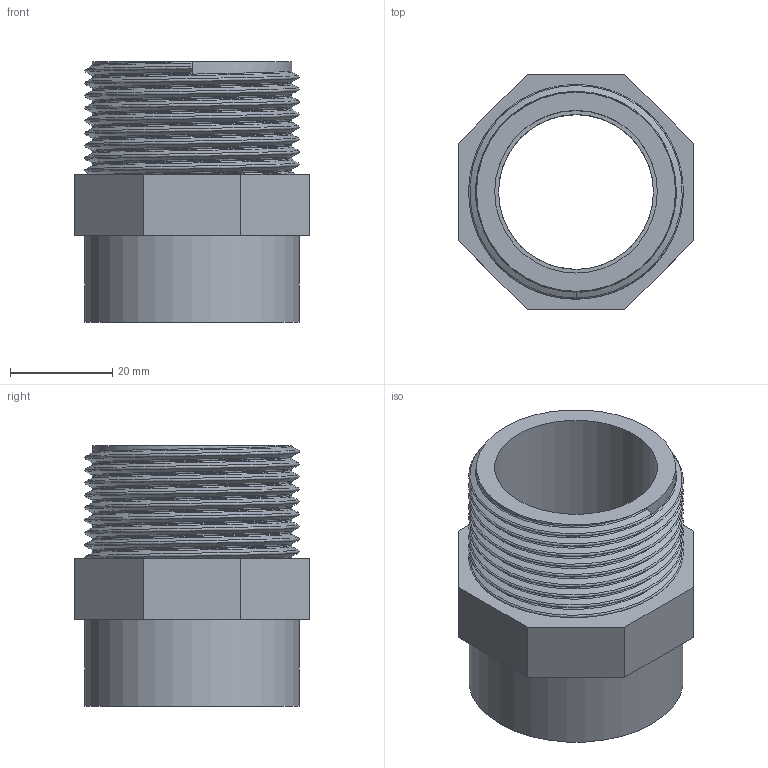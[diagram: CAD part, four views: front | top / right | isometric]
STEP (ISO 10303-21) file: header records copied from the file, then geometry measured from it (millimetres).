
FILE_DESCRIPTION(/* description */ (''),/* implementation_level */ '2;1');
FILE_NAME(/* name */ 'C:\Users\POLYPIPE\Desktop\DATASET INVENTOR\LIBRERIA EFFAST\RACCORDI 3DxWEB\RER\3D_RERRIE\3D_RERRIE040D.stp',/* time_stamp */ '2018-01-19T17:02:42+01:00',/* author */ ('POLYPIPE'),/* organization */ ('Polypipe Italia'),/* preprocessor_version */ 'ST-DEVELOPER v16.1',/* originating_system */ 'Autodesk Inventor 2016',/* authorisation */ '');
FILE_SCHEMA (('CONFIG_CONTROL_DESIGN'));
Length unit declared in the file: millimetre
Products named in the file (1): 3D_RERRIE040D
Bounding box: 46 x 46 x 51 mm (x, y, z)
Volume: 32388.7 mm3; surface area: 17169.8 mm2
Topology: 1 solids, 1 shells, 29 faces, 69 edges, 45 vertices
Faces by surface type: plane 15, bspline 10, cylinder 4
Full cylindrical faces by diameter (mm): 30.291 x1, 31.8 x1, 42 x1
Entity records: 7799 total; most frequent: CARTESIAN_POINT 7176, ORIENTED_EDGE 130, DIRECTION 96, EDGE_CURVE 65, VERTEX_POINT 44, EDGE_LOOP 37, AXIS2_PLACEMENT_3D 33, LINE 30
